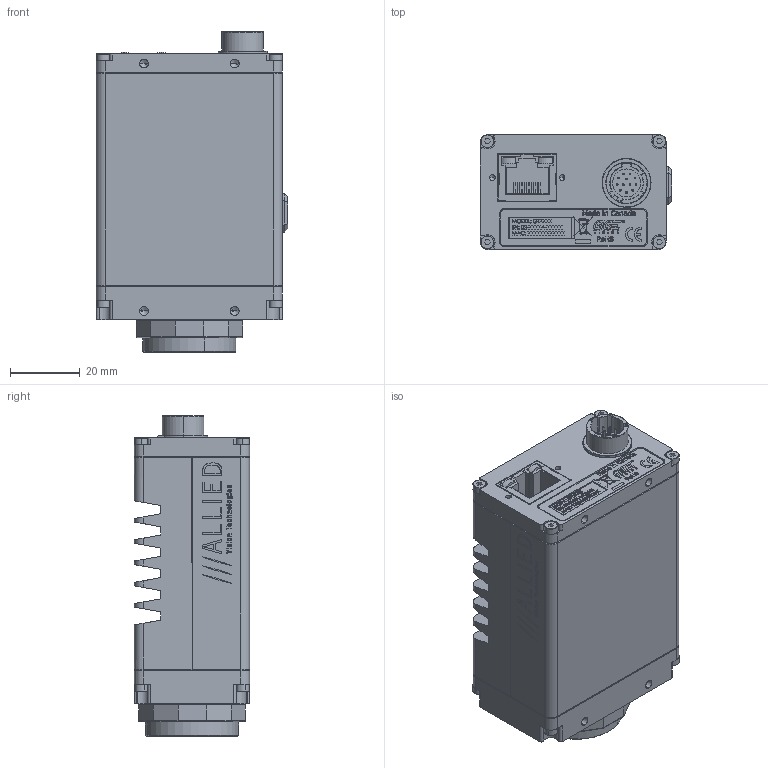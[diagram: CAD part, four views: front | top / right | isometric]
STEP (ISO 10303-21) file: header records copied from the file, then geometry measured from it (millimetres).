
FILE_DESCRIPTION (( 'STEP AP214' ), '1' );
FILE_NAME ('GT1920C CAMERAS ASSY.STEP', '2013-08-01T17:39:04', ( '' ), ( '' ), 'SwSTEP 2.0', 'SolidWorks 2013', '' );
FILE_SCHEMA (( 'AUTOMOTIVE_DESIGN' ));
Length unit declared in the file: millimetre
Products named in the file (26): 440002-IR CUT FILTER 22MM DIA; CONN_AMPHENOL_RJHSE-5481; GT1920C CAMERAS ASSY; 260034-HIROSE HR10A-10R-12PB NUT; 110003AC-CV CMOUNT RING; 200130A-GT CONTROL FAST; 220183-SONY ICX674AQG; 100097B - IR FILTER ASSEMBLY 0.75 INCH; GT TOP COVER_110161A-GT TOP COVER LONG; 110054B-A IR FILTER SUPPORT; SONY ICX674 BODY; 260034-HIROSE HR10A-10R-12PB; 140061-SCREW SKT CAP M2x8 SS; SONY ICX674 WINDOW; 740144A-GT SERIES LABEL; 110153A-GT BACK PLATE; 260034-HIROSE HR10A-10R-12PB WASHER; 110031A-B EC-CCD LOCKING RING; GT FRONT ASSY SONY 4 TAP_100207A-GT1920C FRONT ASSY; GT BOT COVER_110160A-GT BOT COVER LONG; 110103A-GX CCD GASKET; CONN_KOBICONN_163-157J-E; LABEL PRINTOUT; GT BODY ASSY_100192A-GT BODY ASSY FAST; 110162A-GT FRONT PLATE LF; 100191A-GT BACK ASSY
Assembly tree (32 placements, depth 4):
  GT1920C CAMERAS ASSY
    740144A-GT SERIES LABEL
    140061-SCREW SKT CAP M2x8 SS  x4
    GT FRONT ASSY SONY 4 TAP_100207A-GT1920C FRONT ASSY
      110031A-B EC-CCD LOCKING RING
      110103A-GX CCD GASKET
      110162A-GT FRONT PLATE LF
      110003AC-CV CMOUNT RING
      220183-SONY ICX674AQG
        SONY ICX674 WINDOW
        SONY ICX674 BODY
      100097B - IR FILTER ASSEMBLY 0.75 INCH
        440002-IR CUT FILTER 22MM DIA
        110054B-A IR FILTER SUPPORT
    GT BODY ASSY_100192A-GT BODY ASSY FAST
      140061-SCREW SKT CAP M2x8 SS  x4
      100191A-GT BACK ASSY
        260034-HIROSE HR10A-10R-12PB
        110153A-GT BACK PLATE
        260034-HIROSE HR10A-10R-12PB WASHER
        260034-HIROSE HR10A-10R-12PB NUT
      200130A-GT CONTROL FAST
        CONN_KOBICONN_163-157J-E
        CONN_AMPHENOL_RJHSE-5481
      GT TOP COVER_110161A-GT TOP COVER LONG
      GT BOT COVER_110160A-GT BOT COVER LONG
    LABEL PRINTOUT
Bounding box: 54.83 x 33.02 x 91.77 mm (x, y, z)
Volume: 66032.2 mm3; surface area: 56629.5 mm2
Topology: 43 solids, 43 shells, 3815 faces, 9912 edges, 6436 vertices
Faces by surface type: plane 2211, cylinder 703, bspline 641, cone 260
Entity records: 177126 total; most frequent: CARTESIAN_POINT 48239, ORIENTED_EDGE 19032, DIRECTION 15982, EDGE_CURVE 9516, VECTOR 6700, LINE 6700, VERTEX_POINT 6254, AXIS2_PLACEMENT_3D 4641
